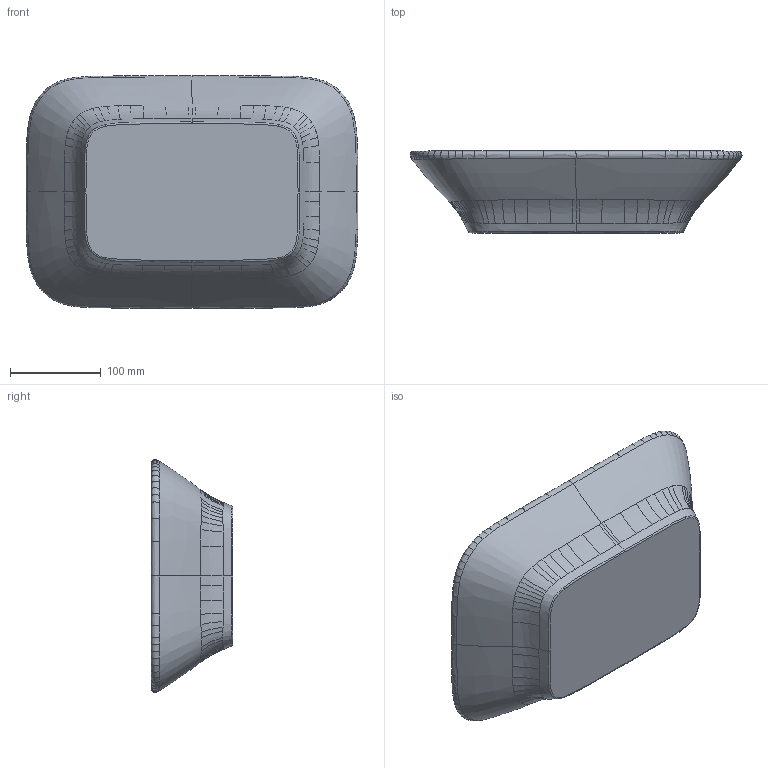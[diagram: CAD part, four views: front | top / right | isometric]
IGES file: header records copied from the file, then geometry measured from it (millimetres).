
Start section:  PTC IGES file: lw10038g.igs
Global section: file name: lw10038g.igs; native system: Pro/ENGINEER by Parametric Technology Corporation; preprocessor: 2010180; author: damjan; organization: Unknown; date: 20110526.112254; units: millimetre
Bounding box: 365.5 x 90 x 255.9 mm (x, y, z)
Volume: 2772454.1 mm3; surface area: 239545.1 mm2
Topology: 1 solids, 1 shells, 174 faces, 495 edges, 324 vertices
Faces by surface type: bspline 170, extrusion 4
